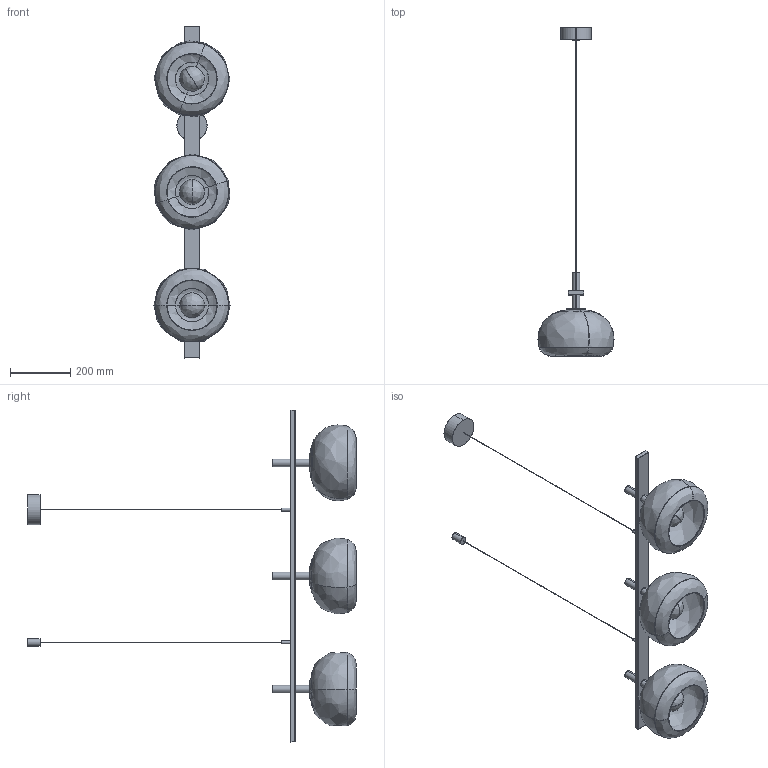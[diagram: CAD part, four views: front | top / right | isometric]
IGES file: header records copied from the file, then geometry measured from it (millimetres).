
Start section: SolidWorks IGES file using analytic representation for surfaces
Global section: file name: C:\Users\Agustin\Desktop\ARNOLD\SEPT 2025\2D-3D DEFINITIVO ONEDRIVE\2D-3D CLOUD_C1345_3\CLOUD_C1345_3.IGS; native system: SolidWorks 2018; preprocessor: SolidWorks 2018; author: Agustin; date: 250905.113915; units: millimetre
Bounding box: 251.88 x 1087.19 x 1100 mm (x, y, z)
Surface area: 1215225.2 mm2 (no closed solid volume)
Topology: 0 solids, 0 shells, 174 faces, 3392 edges, 3378 vertices
Faces by surface type: bspline 94, revolution 80
